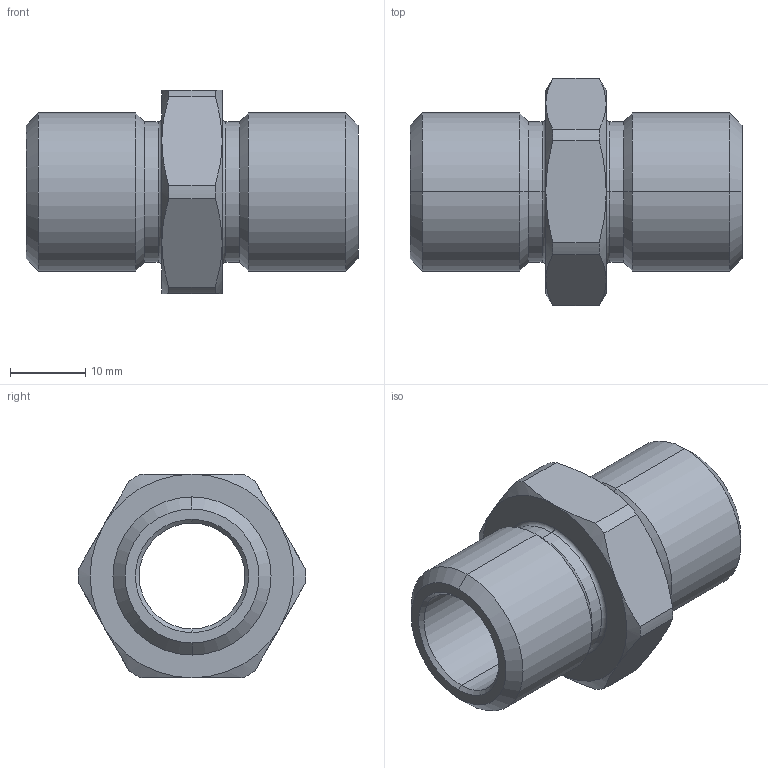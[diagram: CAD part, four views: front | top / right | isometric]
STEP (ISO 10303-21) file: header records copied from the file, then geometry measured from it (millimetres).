
FILE_DESCRIPTION (( 'STEP AP214' ), '1' );
FILE_NAME ('ﾍﾂﾍ1Gﾍ.STEP', '2024-04-23T13:52:16', ( '' ), ( '' ), 'SwSTEP 2.0', 'SolidWorks 2018', '' );
FILE_SCHEMA (( 'AUTOMOTIVE_DESIGN' ));
Length unit declared in the file: millimetre
Products named in the file (1): ﾍﾂﾍ1Gﾍ
Bounding box: 44 x 30.19 x 27 mm (x, y, z)
Volume: 9753.5 mm3; surface area: 6104.3 mm2
Topology: 1 solids, 1 shells, 60 faces, 130 edges, 76 vertices
Faces by surface type: cone 24, cylinder 20, plane 12, torus 4
Entity records: 1812 total; most frequent: CARTESIAN_POINT 419, DIRECTION 296, ORIENTED_EDGE 260, EDGE_CURVE 130, AXIS2_PLACEMENT_3D 129, VERTEX_POINT 76, CIRCLE 68, EDGE_LOOP 66
